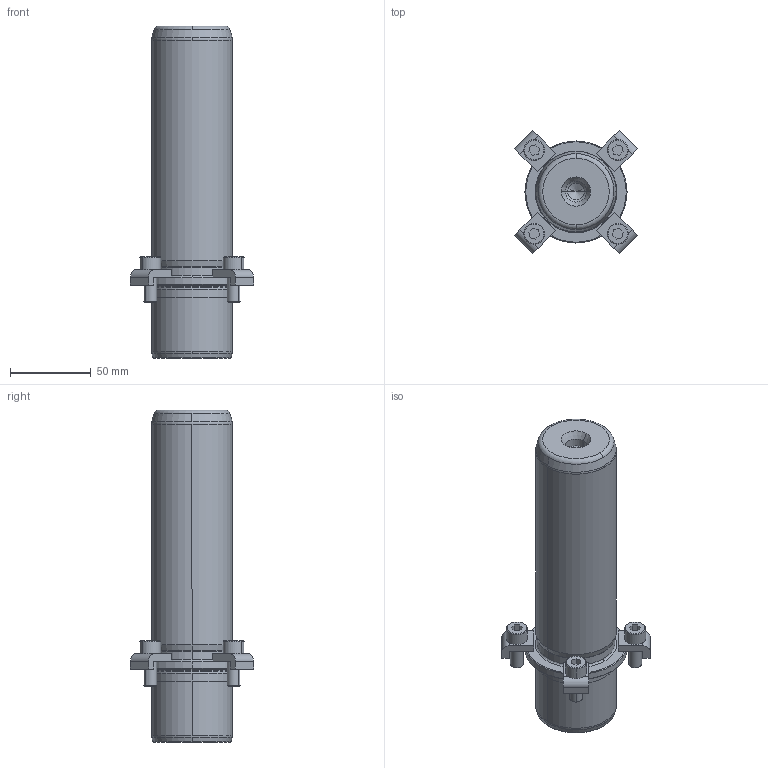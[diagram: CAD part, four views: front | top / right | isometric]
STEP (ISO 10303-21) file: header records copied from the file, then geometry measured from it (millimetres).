
FILE_DESCRIPTION((''),'2;1');
FILE_NAME('P21_050_160.stp','2008-12-23T13:43:02',(''),(''),'Mechanical Desktop 2009','Mechanical Desktop 2009',', , ');
FILE_SCHEMA(('CONFIG_CONTROL_DESIGN'));
Length unit declared in the file: millimetre
Products named in the file (2): Product; blmdl1
Assembly tree (1 placements, depth 2):
  Product
    blmdl1
Bounding box: 76.01 x 76.01 x 205 mm (x, y, z)
Volume: 410686 mm3; surface area: 49570.1 mm2
Topology: 9 solids, 9 shells, 195 faces, 477 edges, 309 vertices
Faces by surface type: plane 77, cylinder 52, cone 34, torus 16, bspline 16
Entity records: 6547 total; most frequent: CARTESIAN_POINT 1683, DIRECTION 1078, ORIENTED_EDGE 946, EDGE_CURVE 473, AXIS2_PLACEMENT_3D 424, VERTEX_POINT 309, CIRCLE 243, VECTOR 230
